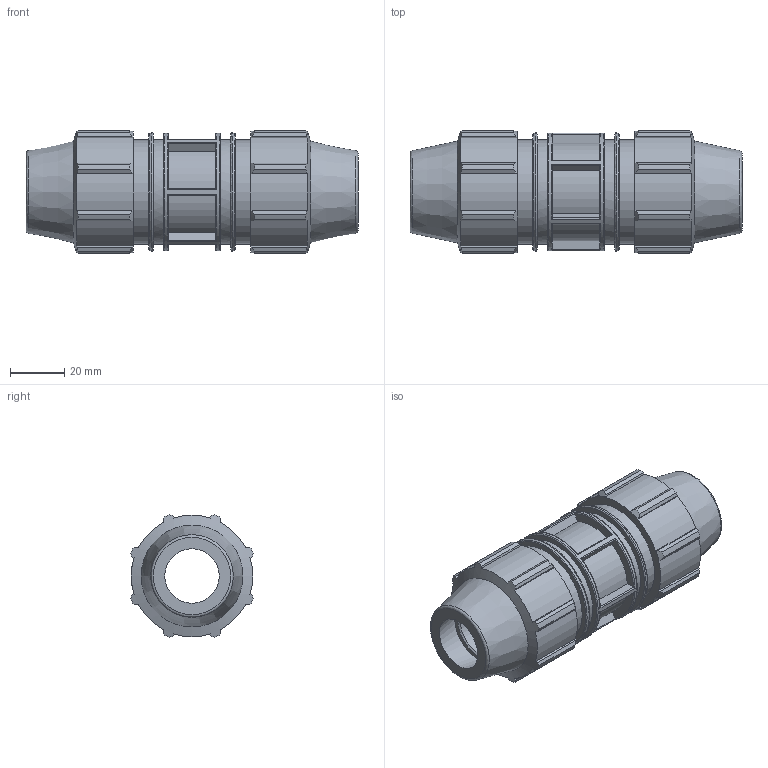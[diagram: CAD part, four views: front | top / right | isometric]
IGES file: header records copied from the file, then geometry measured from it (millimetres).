
Global section: file name: 076100020_186100020_0761060200A.ipt; native system: Autodesk Inventor 2015; preprocessor: unknown; author: KIM; date: 20180617.114128; units: millimetre
Bounding box: 122 x 45.16 x 45.16 mm (x, y, z)
Volume: 111997.8 mm3; surface area: 29511.8 mm2
Topology: 1 solids, 1 shells, 202 faces, 567 edges, 382 vertices
Faces by surface type: plane 100, cylinder 55, revolution 25, cone 22
Full cylindrical faces by diameter (mm): 38.4 x4, 43.2 x1
